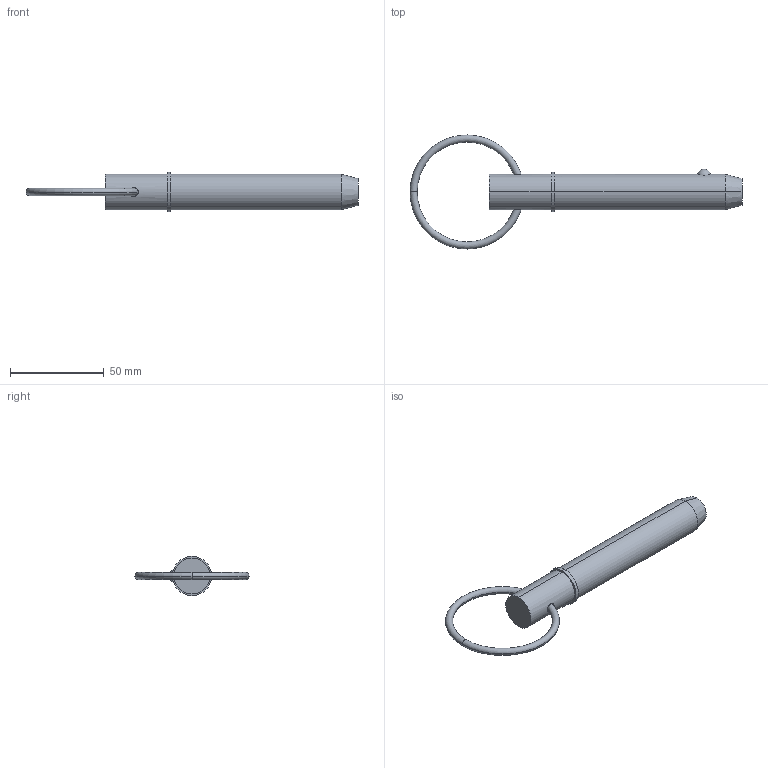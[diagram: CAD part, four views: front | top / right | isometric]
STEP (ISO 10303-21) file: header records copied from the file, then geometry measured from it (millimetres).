
FILE_DESCRIPTION (( 'STEP AP203' ), '1' );
FILE_NAME ('33014.W7530.step', '2024-11-04T08:35:35', ( '' ), ( '' ), 'SwSTEP 2.0', 'SolidWorks 2019', '' );
FILE_SCHEMA (( 'CONFIG_CONTROL_DESIGN' ));
Length unit declared in the file: millimetre
Products named in the file (3): 33014.W7530; Part1_33014.W7530; Part2_33014.W7530
Assembly tree (2 placements, depth 2):
  33014.W7530
    Part1_33014.W7530
    Part2_33014.W7530
Bounding box: 177.4 x 60.96 x 20.95 mm (x, y, z)
Volume: 39764.7 mm3; surface area: 11026.9 mm2
Topology: 2 solids, 2 shells, 22 faces, 43 edges, 26 vertices
Faces by surface type: torus 8, cylinder 6, plane 4, sphere 2, cone 2
Entity records: 1053 total; most frequent: CARTESIAN_POINT 276, DIRECTION 120, ORIENTED_EDGE 86, AXIS2_PLACEMENT_3D 56, EDGE_CURVE 43, CIRCLE 29, EDGE_LOOP 27, VERTEX_POINT 26
